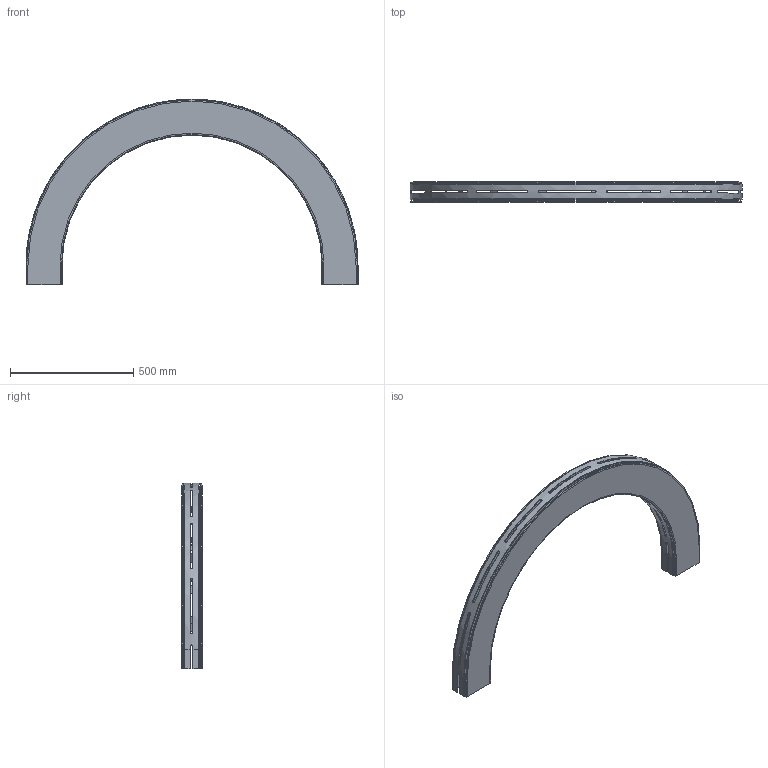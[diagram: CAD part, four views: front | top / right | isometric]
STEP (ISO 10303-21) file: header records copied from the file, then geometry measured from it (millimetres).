
FILE_DESCRIPTION(/* description */ ('GLIDKURVA SERIE 540'),/* implementation_level */ '2;1');
FILE_NAME(/* name */ '540-5375+140-2000-01.stp',/* time_stamp */ '2022-09-21T09:50:47+02:00',/* author */ ('Mathias.Dore'),/* organization */ ('CARRYLINE'),/* preprocessor_version */ 'ST-DEVELOPER v19.2',/* originating_system */ 'Autodesk Inventor 2023',/* authorisation */ '');
FILE_SCHEMA (('AUTOMOTIVE_DESIGN { 1 0 10303 214 3 1 1 }'));
Length unit declared in the file: millimetre
Products named in the file (1): 540-5375+140-2000-01
Bounding box: 1346 x 82 x 753 mm (x, y, z)
Volume: 4617207.5 mm3; surface area: 2370929.8 mm2
Topology: 2 solids, 2 shells, 223 faces, 626 edges, 412 vertices
Faces by surface type: plane 141, bspline 46, cylinder 28, cone 4, torus 4
Entity records: 9001 total; most frequent: CARTESIAN_POINT 3280, ORIENTED_EDGE 1252, DIRECTION 1026, EDGE_CURVE 626, VERTEX_POINT 412, LINE 398, VECTOR 398, AXIS2_PLACEMENT_3D 314
